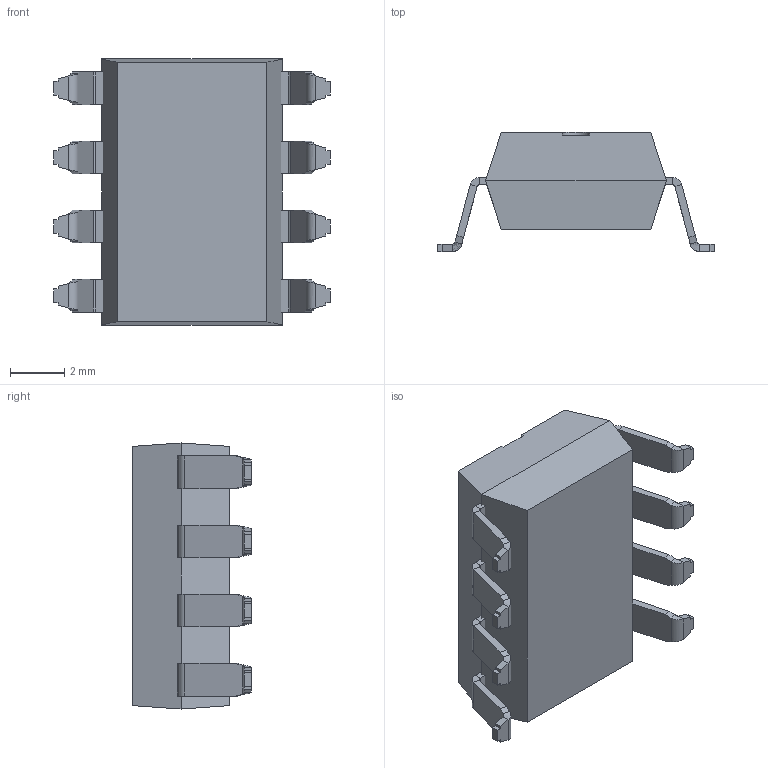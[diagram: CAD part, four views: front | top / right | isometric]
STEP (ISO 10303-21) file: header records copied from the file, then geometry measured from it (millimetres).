
FILE_DESCRIPTION (( 'STEP AP214' ), '1' );
FILE_NAME ('DIP8-OP7.STEP', '2015-12-12T20:41:57', ( '' ), ( '' ), 'SwSTEP 2.0', 'SolidWorks 2015', '' );
FILE_SCHEMA (( 'AUTOMOTIVE_DESIGN' ));
Length unit declared in the file: millimetre
Products named in the file (2): DIP8-OP7
Bounding box: 10.16 x 4.36 x 9.77 mm (x, y, z)
Volume: 242.6 mm3; surface area: 646.6 mm2
Topology: 4 solids, 4 shells, 226 faces, 526 edges, 308 vertices
Faces by surface type: plane 177, cylinder 33, bspline 16
Entity records: 6598 total; most frequent: CARTESIAN_POINT 1452, ORIENTED_EDGE 1052, DIRECTION 918, EDGE_CURVE 526, LINE 426, VECTOR 426, VERTEX_POINT 308, AXIS2_PLACEMENT_3D 246
